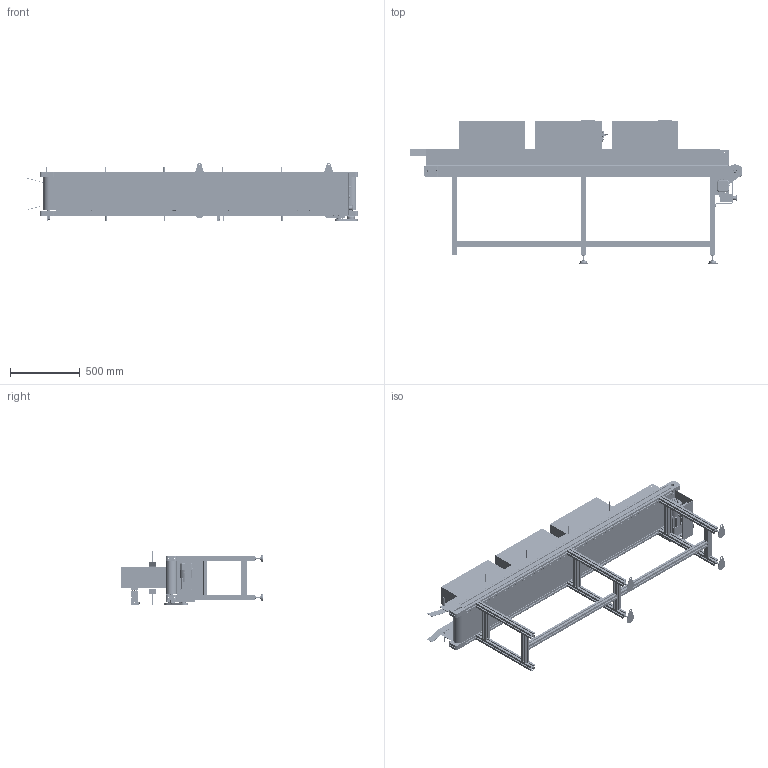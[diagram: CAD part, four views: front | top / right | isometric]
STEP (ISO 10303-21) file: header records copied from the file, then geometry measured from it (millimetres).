
FILE_DESCRIPTION(/* description */ (''),/* implementation_level */ '2;1');
FILE_NAME(/* name */ 'beltconveyor_a054_w236_l2280.stp',/* time_stamp */ '2024-12-22T21:28:55+08:00',/* author */ (''),/* organization */ (''),/* preprocessor_version */ 'ST-DEVELOPER v16.7',/* originating_system */ 'SIEMENS PLM Software NX 12.0',/* authorisation */ '');
FILE_SCHEMA (('AUTOMOTIVE_DESIGN { 1 0 10303 214 3 1 1 1 }'));
Products named in the file (72): DIJIAO-01_1; DIJIAO-02_1; MOTOR-90W-003_3_3; MOTOR-90W-003_3_2; MOTOR-90W-003_3_1; B-A-28-008_1_1; 40-90W_RK_WASHER_OUT_1; M3X6_THREAD_6_1; B-A-09-054_1; M3X6_THREAD_3_1; M3X6_THREAD_5_1; 6000ZZ-BEARING_1; 502CAP_1; 60W-380V_1; 19X25_WASHER_1; 501_BARREL_1; B-A-01-010_1; M4X8_SCREW_1; M3X6_THREAD_2_1; M4X8_SCREW_1_1; M3X6_THREAD_7_1; M3X6_THREAD_4_1; B-A-28-008_1; FAN_COVER_1; M3X6_THREAD_1_1; M3X6_THREAD_1; M590_5150-001B_002B-02_1; M590_5150-001B_002B-01_1; _TN16-50_fp; _TN16-50 - 50_b; _CS1-J(); START_1; JIAN-5-25_1; OYU-40-40-03_4; SDEEP-CONTROL_2; OYU-40-80-01_4; STOP_1; MAIN-CONVEYOR-001-002_5; 镜向侧导向板; HKX-001-006_2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
Assembly tree (107 placements, depth 4):
  beltconveyor_a054_w236_l2280
    纸箱阻挡
      TN16X50S_0_+_CS1-J-2_
        _CS1-J()  x2
        _TN16-50 - 50_b
        _TN16-50_fp
    标签  x2
    MOTOR-90W-000_ASM_7_ASM
      M6-45_1
      MOTOR-90W-001_1
      PACMGZ90-30_ASM_1_ASM
        M590_5150-001B_002B-01_1
        M590_5150-001B_002B-02_1
      M590_5150-001B_002B_ASM_1_ASM
        M3X6_THREAD_1
        M3X6_THREAD_1_1
        FAN_COVER_1
        B-A-28-008_1
        M3X6_THREAD_4_1
        M3X6_THREAD_7_1
        M4X8_SCREW_1_1
        M3X6_THREAD_2_1
        M4X8_SCREW_1
        B-A-01-010_1
        501_BARREL_1
        19X25_WASHER_1
        60W-380V_1
        502CAP_1
        6000ZZ-BEARING_1
        M3X6_THREAD_5_1
        M3X6_THREAD_3_1
        B-A-09-054_1
        M3X6_THREAD_6_1
        40-90W_RK_WASHER_OUT_1
        B-A-28-008_1_1
      06B-13_1
      MOTOR-90W-004_1
      MOTOR-90W-002_3
      MOTOR-90W-003_3_ASM
        MOTOR-90W-003_3_1
        MOTOR-90W-003_3_2
        MOTOR-90W-003_3_3
    HKX-002-000_ASM_2_ASM
      HKX-002-003_5
      HKX-002-001_2
      B6304ZZ_1  x4
      HKX-002-002_2
      BASIC_EXT_20_1  x2
    HKX-001-000_ASM_13_ASM
      HKX-001-002_3  x2
      OYU-40-40-02_2  x6
      侧导向板
      HKX-001-009_7
      DIJIAO-00_ASM_1_ASM  x4
        DIJIAO-02_1
        DIJIAO-01_1
      HKX-007_2  x4
      B6804ZZ_1  x4
      OYU-40-80-02_4  x2
      OYU-40-40-01_3  x6
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Bounding box: 2377.53 x 1024 x 421.95 mm (x, y, z)
Volume: 87842011 mm3; surface area: 14668073.6 mm2
Topology: 171 solids, 171 shells, 7308 faces, 19783 edges, 12997 vertices
Faces by surface type: plane 3801, cylinder 2028, extrusion 738, cone 264, torus 250, bspline 193, sphere 34
Full cylindrical faces by diameter (mm): 10 x22
Entity records: 231175 total; most frequent: CARTESIAN_POINT 88898, ORIENTED_EDGE 25532, DIRECTION 22070, EDGE_CURVE 12766, VERTEX_POINT 8403, VECTOR 7458, AXIS2_PLACEMENT_3D 7306, LINE 7089
